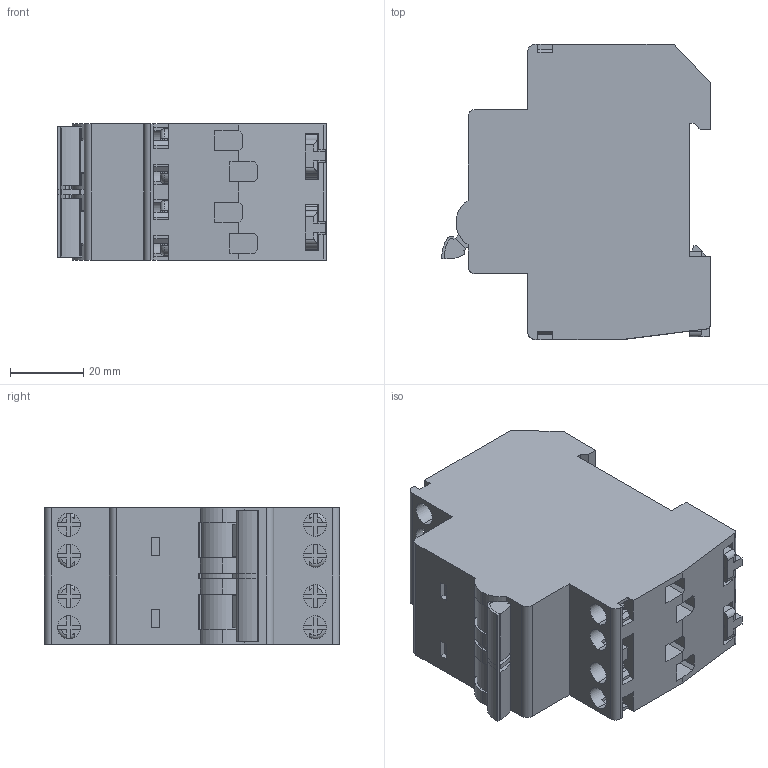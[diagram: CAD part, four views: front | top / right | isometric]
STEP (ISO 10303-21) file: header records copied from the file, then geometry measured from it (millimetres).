
FILE_DESCRIPTION (( 'STEP AP214' ), '1' );
FILE_NAME ('Fornuisgroep.STEP', '2025-07-29T12:42:39', ( '' ), ( '' ), 'SwSTEP 2.0', 'SolidWorks 2025', '' );
FILE_SCHEMA (( 'AUTOMOTIVE_DESIGN' ));
Length unit declared in the file: millimetre
Products named in the file (3): CAD #14; Lipje algemeen; Fornuisgroep
Assembly tree (3 placements, depth 2):
  Fornuisgroep
    CAD #14
    Lipje algemeen  x2
Bounding box: 73.52 x 80.8 x 37.25 mm (x, y, z)
Volume: 162058.3 mm3; surface area: 28362.4 mm2
Topology: 4 solids, 4 shells, 612 faces, 1738 edges, 1132 vertices
Faces by surface type: plane 487, cylinder 112, torus 12, bspline 1
Entity records: 18194 total; most frequent: CARTESIAN_POINT 3482, ORIENTED_EDGE 3154, DIRECTION 2935, EDGE_CURVE 1577, VECTOR 1241, LINE 1241, VERTEX_POINT 1026, AXIS2_PLACEMENT_3D 847
